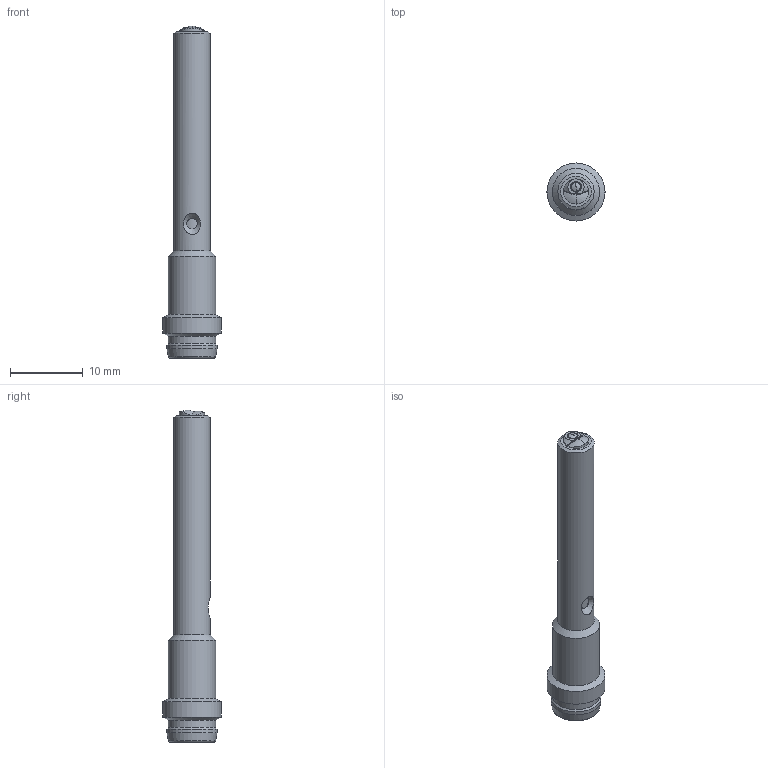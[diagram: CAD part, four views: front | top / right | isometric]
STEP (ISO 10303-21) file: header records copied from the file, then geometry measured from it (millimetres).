
FILE_DESCRIPTION(/* description */ (''),/* implementation_level */ '2;1');
FILE_NAME(/* name */ 'C:\#Vault-WorkDir\Konstruktions-Dokumente\Projekte\Handelsware\FT 04, FT 05\153-13581_FT 05 R-PSL-M3.stp',/* time_stamp */ '2019-02-27T09:20:49+01:00',/* author */ ('SensoPart'),/* organization */ ('SensoPart'),/* preprocessor_version */ 'ST-DEVELOPER v17',/* originating_system */ 'Autodesk Inventor 2018',/* authorisation */ '');
FILE_SCHEMA (('AUTOMOTIVE_DESIGN { 1 0 10303 214 3 1 1 }'));
Length unit declared in the file: millimetre
Products named in the file (1): GH-ENG-0028178
Bounding box: 8 x 8 x 45.76 mm (x, y, z)
Volume: 1008.9 mm3; surface area: 1011 mm2
Topology: 1 solids, 1 shells, 53 faces, 140 edges, 93 vertices
Faces by surface type: cylinder 17, plane 13, cone 10, bspline 8, sphere 3, torus 2
Full cylindrical faces by diameter (mm): 1 x3, 1.25 x1, 5 x1, 5.7 x1, 5.8 x1, 6.5 x2, 6.9 x1, 8 x1
Entity records: 6677 total; most frequent: CARTESIAN_POINT 5358, DIRECTION 271, ORIENTED_EDGE 266, EDGE_CURVE 133, AXIS2_PLACEMENT_3D 119, VERTEX_POINT 93, CIRCLE 69, EDGE_LOOP 64
